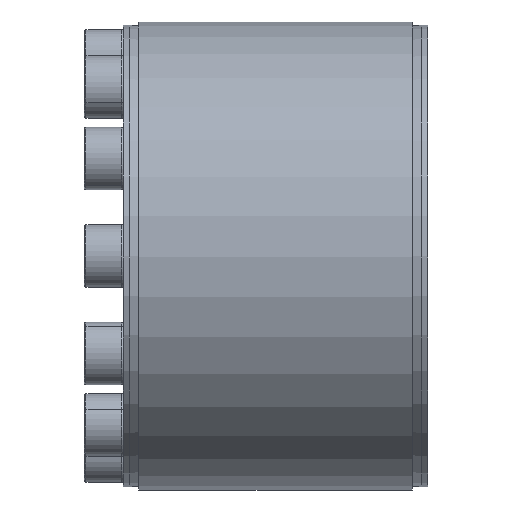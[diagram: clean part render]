
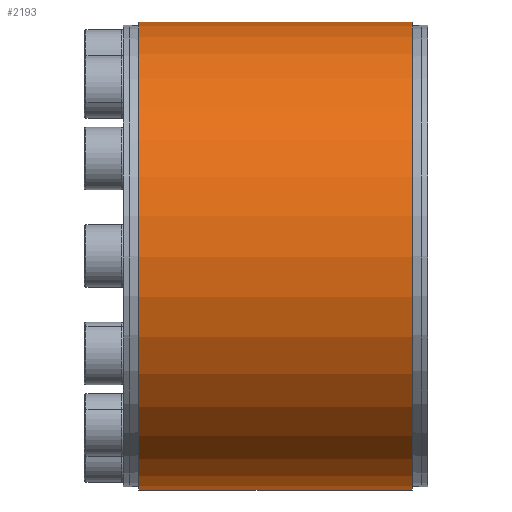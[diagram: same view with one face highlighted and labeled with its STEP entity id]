
A CAD part, front view. The second image highlights one B-rep face of the part: STEP entity #2193.
In plain terms, the highlighted cylindrical face has radius 60 mm (diameter 120 mm), a partial arc.
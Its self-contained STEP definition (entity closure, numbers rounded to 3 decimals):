
#234 = CIRCLE ( 'NONE', #652, 60. ) ;
#254 = DIRECTION ( 'NONE',  ( -1., 0., 0. ) ) ;
#338 = VERTEX_POINT ( 'NONE', #1055 ) ;
#401 = VERTEX_POINT ( 'NONE', #3988 ) ;
#629 = CARTESIAN_POINT ( 'NONE',  ( 4., 0.5, 59.998 ) ) ;
#652 = AXIS2_PLACEMENT_3D ( 'NONE', #3705, #3719, #1715 ) ;
#680 = LINE ( 'NONE', #3167, #3695 ) ;
#717 = LINE ( 'NONE', #1198, #3203 ) ;
#850 = CARTESIAN_POINT ( 'NONE',  ( 74., 0., 0. ) ) ;
#868 = ORIENTED_EDGE ( 'NONE', *, *, #2527, .T. ) ;
#1055 = CARTESIAN_POINT ( 'NONE',  ( 4., -0.5, 59.998 ) ) ;
#1059 = CARTESIAN_POINT ( 'NONE',  ( 0., 0., 0. ) ) ;
#1198 = CARTESIAN_POINT ( 'NONE',  ( 0., -0.5, 59.998 ) ) ;
#1301 = EDGE_CURVE ( 'NONE', #2932, #338, #717, .T. ) ;
#1441 = AXIS2_PLACEMENT_3D ( 'NONE', #850, #2867, #3191 ) ;
#1695 = EDGE_CURVE ( 'NONE', #4275, #338, #234, .T. ) ;
#1715 = DIRECTION ( 'NONE',  ( 0., 0., 1. ) ) ;
#1875 = CARTESIAN_POINT ( 'NONE',  ( 74., -0.5, 59.998 ) ) ;
#1928 = AXIS2_PLACEMENT_3D ( 'NONE', #1059, #254, #2026 ) ;
#2026 = DIRECTION ( 'NONE',  ( 0., 0., 1. ) ) ;
#2193 = ADVANCED_FACE ( 'NONE', ( #4323 ), #4112, .T. ) ;
#2527 = EDGE_CURVE ( 'NONE', #4275, #401, #680, .T. ) ;
#2657 = ORIENTED_EDGE ( 'NONE', *, *, #1301, .T. ) ;
#2788 = CIRCLE ( 'NONE', #1441, 60. ) ;
#2835 = ORIENTED_EDGE ( 'NONE', *, *, #1695, .F. ) ;
#2867 = DIRECTION ( 'NONE',  ( -1., 0., 0. ) ) ;
#2903 = DIRECTION ( 'NONE',  ( -1., 0., 0. ) ) ;
#2914 = ORIENTED_EDGE ( 'NONE', *, *, #2995, .T. ) ;
#2932 = VERTEX_POINT ( 'NONE', #1875 ) ;
#2995 = EDGE_CURVE ( 'NONE', #401, #2932, #2788, .T. ) ;
#3167 = CARTESIAN_POINT ( 'NONE',  ( 0., 0.5, 59.998 ) ) ;
#3191 = DIRECTION ( 'NONE',  ( 0., 0., 1. ) ) ;
#3203 = VECTOR ( 'NONE', #2903, 1000. ) ;
#3695 = VECTOR ( 'NONE', #4188, 1000. ) ;
#3705 = CARTESIAN_POINT ( 'NONE',  ( 4., 0., 0. ) ) ;
#3719 = DIRECTION ( 'NONE',  ( -1., 0., 0. ) ) ;
#3969 = EDGE_LOOP ( 'NONE', ( #2835, #868, #2914, #2657 ) ) ;
#3988 = CARTESIAN_POINT ( 'NONE',  ( 74., 0.5, 59.998 ) ) ;
#4112 = CYLINDRICAL_SURFACE ( 'NONE', #1928, 60. ) ;
#4188 = DIRECTION ( 'NONE',  ( 1., 0., 0. ) ) ;
#4275 = VERTEX_POINT ( 'NONE', #629 ) ;
#4323 = FACE_OUTER_BOUND ( 'NONE', #3969, .T. ) ;
